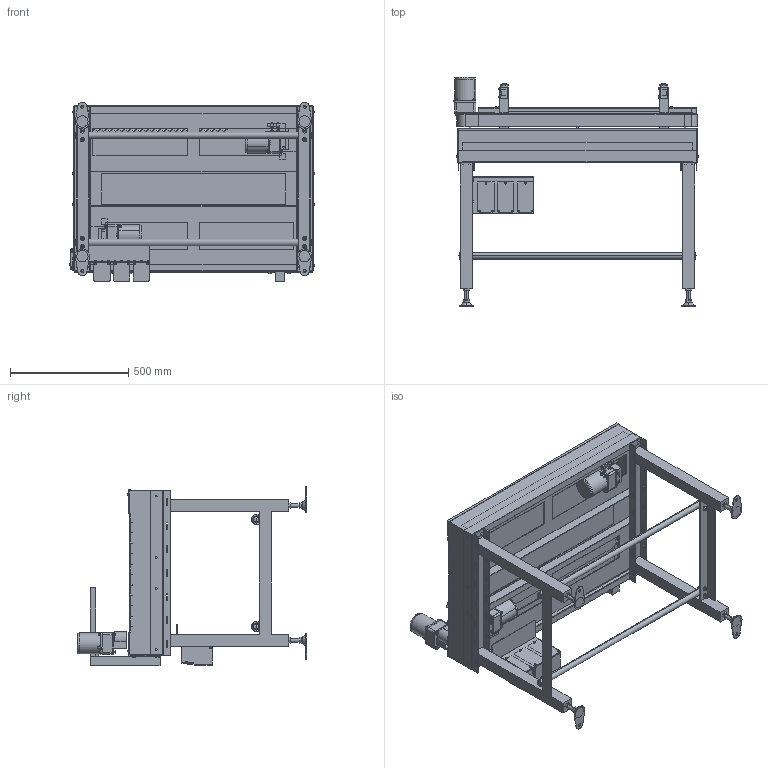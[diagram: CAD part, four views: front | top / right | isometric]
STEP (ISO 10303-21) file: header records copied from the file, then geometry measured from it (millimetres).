
FILE_DESCRIPTION( (''), '2;1');
FILE_NAME ('SGA-304x3-500-R-IVH-15-A.stp','2025-01-31T09:16:02',(''),(''),'spGate 20.6.2 (****-****-****-****)','','');
FILE_SCHEMA (('AUTOMOTIVE_DESIGN'));
Length unit declared in the file: millimetre
Products named in the file (94): NewModel; TEMP_X_T-prt0; TEMP_X_T-prt1; TEMP_X_T-prt2; TEMP_X_T-prt3; TEMP_X_T-prt4; TEMP_X_T-prt5; TEMP_X_T-prt6; TEMP_X_T-prt7; TEMP_X_T-prt8; TEMP_X_T-prt9; TEMP_X_T-prt10; TEMP_X_T-prt11; TEMP_X_T-prt12; TEMP_X_T-prt13; TEMP_X_T-prt14; TEMP_X_T-prt15; TEMP_X_T-prt16; TEMP_X_T-prt17; TEMP_X_T-prt18; TEMP_X_T-prt19; TEMP_X_T-prt20; TEMP_X_T-prt21; TEMP_X_T-prt22; TEMP_X_T-prt23; TEMP_X_T-prt24; TEMP_X_T-prt25; TEMP_X_T-prt26; TEMP_X_T-prt27; TEMP_X_T-prt28; TEMP_X_T-prt29; TEMP_X_T-prt30; TEMP_X_T-prt31; TEMP_X_T-prt32; TEMP_X_T-prt33; TEMP_X_T-prt34; TEMP_X_T-prt35; TEMP_X_T-prt36; TEMP_X_T-prt37; TEMP_X_T-prt38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
Assembly tree (93 placements, depth 2):
  NewModel
    TEMP_X_T-prt0
    TEMP_X_T-prt1
    TEMP_X_T-prt2
    TEMP_X_T-prt3
    TEMP_X_T-prt4
    TEMP_X_T-prt5
    TEMP_X_T-prt6
    TEMP_X_T-prt7
    TEMP_X_T-prt8
    TEMP_X_T-prt9
    TEMP_X_T-prt10
    TEMP_X_T-prt11
    TEMP_X_T-prt12
    TEMP_X_T-prt13
    TEMP_X_T-prt14
    TEMP_X_T-prt15
    TEMP_X_T-prt16
    TEMP_X_T-prt17
    TEMP_X_T-prt18
    TEMP_X_T-prt19
    TEMP_X_T-prt20
    TEMP_X_T-prt21
    TEMP_X_T-prt22
    TEMP_X_T-prt23
    TEMP_X_T-prt24
    TEMP_X_T-prt25
    TEMP_X_T-prt26
    TEMP_X_T-prt27
    TEMP_X_T-prt28
    TEMP_X_T-prt29
    TEMP_X_T-prt30
    TEMP_X_T-prt31
    TEMP_X_T-prt32
    TEMP_X_T-prt33
    TEMP_X_T-prt34
    TEMP_X_T-prt35
    TEMP_X_T-prt36
    TEMP_X_T-prt37
    TEMP_X_T-prt38
    TEMP_X_T-prt39
    TEMP_X_T-prt40
    TEMP_X_T-prt41
    TEMP_X_T-prt42
    TEMP_X_T-prt43
    TEMP_X_T-prt44
    TEMP_X_T-prt45
    TEMP_X_T-prt46
    TEMP_X_T-prt47
    TEMP_X_T-prt48
    TEMP_X_T-prt49
    TEMP_X_T-prt50
    TEMP_X_T-prt51
    TEMP_X_T-prt52
    TEMP_X_T-prt53
    TEMP_X_T-prt54
    TEMP_X_T-prt55
    TEMP_X_T-prt56
    TEMP_X_T-prt57
    TEMP_X_T-prt58
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Bounding box: 1034.17 x 969.4 x 760 mm (x, y, z)
Volume: 29495716.5 mm3; surface area: 6793757.7 mm2
Topology: 93 solids, 93 shells, 3432 faces, 8486 edges, 5427 vertices
Faces by surface type: plane 2246, cylinder 807, bspline 363, sphere 16
Entity records: 176074 total; most frequent: CARTESIAN_POINT 25394, ORIENTED_EDGE 16876, DIRECTION 15851, COLOUR_RGB 11963, PRESENTATION_STYLE_ASSIGNMENT 11963, STYLED_ITEM 11963, EDGE_CURVE 8438, DRAUGHTING_PRE_DEFINED_CURVE_FONT 8438
